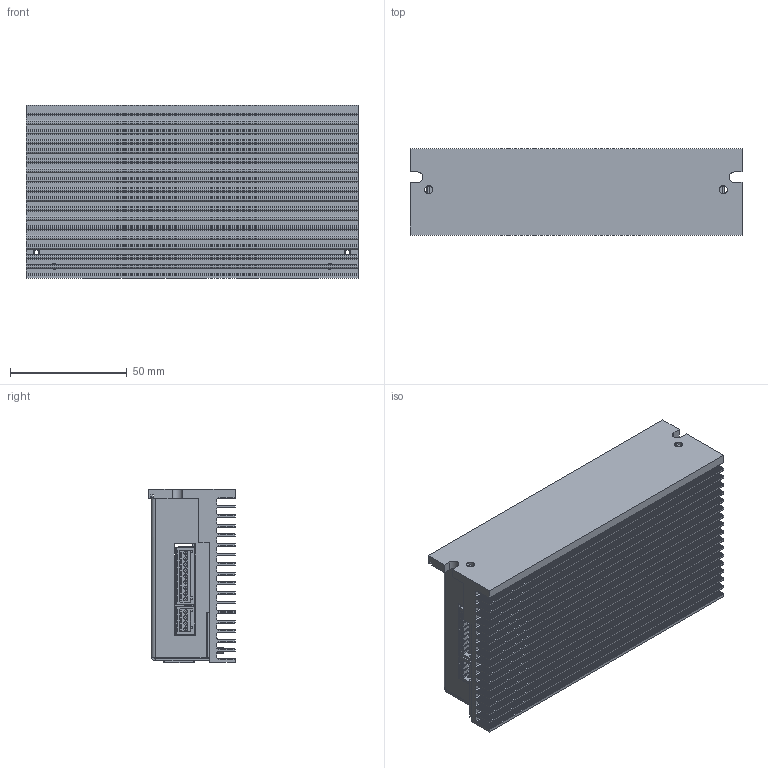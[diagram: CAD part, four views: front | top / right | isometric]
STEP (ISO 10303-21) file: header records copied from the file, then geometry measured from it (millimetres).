
FILE_DESCRIPTION((''),'2;1');
FILE_NAME('SW1D2142XX61-00_ASM','2020-07-28T11:18:36',('Matteo Maccalli'),(''),'CREO PARAMETRIC BY PTC INC, 2019344','CREO PARAMETRIC BY PTC INC, 2019344','');
FILE_SCHEMA(('AUTOMOTIVE_DESIGN { 1 0 10303 214 1 1 1 1 }'));
Products named in the file (20): RK_00756-01; RK_00758-01; PB_DMD01-02; SMD_SW_DIP8_90; SMD_4-DIPSWITCH_RIGTH_ANGLE; SMD_DPAK_TO252; 1803316; 1803277; SIDELED_VERDE_SMD; 1881464; 1881516; 1881480; 901220762; C-5555153-01-B-3D; CE_16X25_P7E62_ORIZZONTALE; CE_10X16_P5; C-1241050-04-3-A7; DMD01V01R00-02_INST_ASM; RK_00757-01; SW1D2142XX61-00_ASM
Assembly tree (28 placements, depth 3):
  SW1D2142XX61-00_ASM
    RK_00756-01
    RK_00758-01
    DMD01V01R00-02_INST_ASM
      PB_DMD01-02
      SMD_SW_DIP8_90
      SMD_4-DIPSWITCH_RIGTH_ANGLE
      SMD_DPAK_TO252  x8
      1803316
      1803277
      SIDELED_VERDE_SMD  x2
      1881464
      1881516
      1881480
      901220762
      C-5555153-01-B-3D  x2
      CE_16X25_P7E62_ORIZZONTALE
      CE_10X16_P5
      C-1241050-04-3-A7
    RK_00757-01
Bounding box: 142 x 37 x 74.39 mm (x, y, z)
Volume: 128803 mm3; surface area: 150464.4 mm2
Topology: 25 solids, 34 shells, 5389 faces, 14697 edges, 9645 vertices
Faces by surface type: plane 4636, cylinder 697, cone 34, torus 12, bspline 6, sphere 4
Entity records: 198534 total; most frequent: CARTESIAN_POINT 30075, ORIENTED_EDGE 26006, DIRECTION 23675, EDGE_CURVE 13033, PRESENTATION_STYLE_ASSIGNMENT 12785, VECTOR 11491, LINE 11491, STYLED_ITEM 11456
